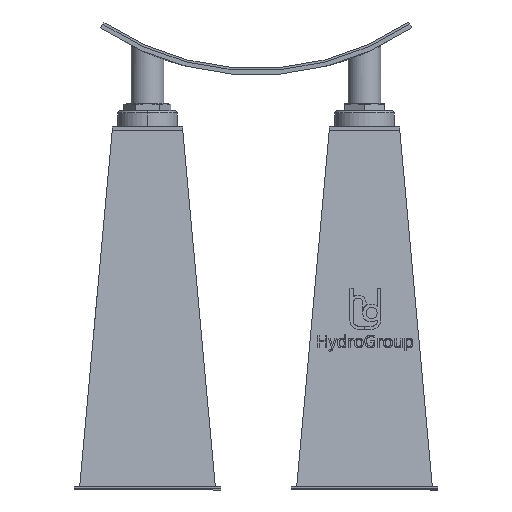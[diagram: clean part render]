
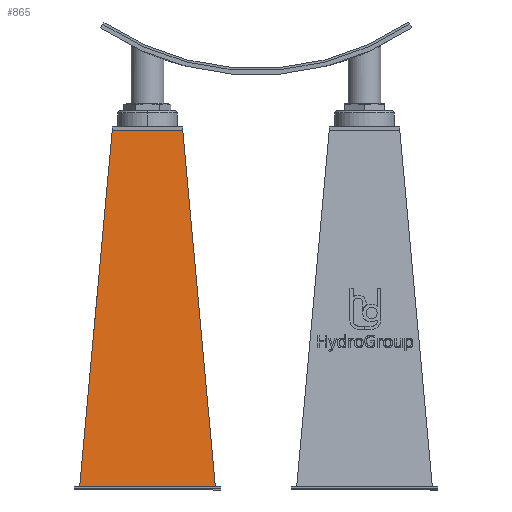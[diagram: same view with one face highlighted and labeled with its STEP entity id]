
A CAD part, front view. The second image highlights one B-rep face of the part: STEP entity #865.
In plain terms, the highlighted planar face has unit normal (0, -0.996, 0.091).
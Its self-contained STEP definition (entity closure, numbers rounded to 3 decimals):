
#865=ADVANCED_FACE('',(#1957),#1958,.T.);
#1957=FACE_OUTER_BOUND('',#3371,.T.);
#1958=PLANE('',#3372);
#3371=EDGE_LOOP('',(#5937,#5938,#5939,#5940));
#3372=AXIS2_PLACEMENT_3D('',#5941,#5942,#5943);
#5937=ORIENTED_EDGE('',*,*,#9039,.T.);
#5938=ORIENTED_EDGE('',*,*,#9056,.F.);
#5939=ORIENTED_EDGE('',*,*,#9026,.T.);
#5940=ORIENTED_EDGE('',*,*,#8786,.T.);
#5941=CARTESIAN_POINT('',(194.847,499.969,232.019));
#5942=DIRECTION('',(0.,-0.996,0.091));
#5943=DIRECTION('',(-1.0,0.,0.));
#8786=EDGE_CURVE('',#10466,#10464,#10467,.F.);
#9026=EDGE_CURVE('',#10780,#10466,#10781,.F.);
#9039=EDGE_CURVE('',#10464,#10802,#10805,.T.);
#9056=EDGE_CURVE('',#10780,#10802,#10826,.T.);
#10464=VERTEX_POINT('',#13090);
#10466=VERTEX_POINT('',#13093);
#10467=LINE('',#13094,#13095);
#10780=VERTEX_POINT('',#13665);
#10781=LINE('',#13666,#13667);
#10802=VERTEX_POINT('',#13698);
#10805=LINE('',#13702,#13703);
#10826=LINE('',#13734,#13735);
#13090=CARTESIAN_POINT('',(131.834,439.944,-425.254));
#13093=CARTESIAN_POINT('',(191.834,499.944,231.746));
#13094=CARTESIAN_POINT('',(192.392,500.502,237.857));
#13095=VECTOR('',#17140,1.);
#13665=CARTESIAN_POINT('',(321.859,499.944,231.746));
#13666=CARTESIAN_POINT('',(225.847,499.944,231.746));
#13667=VECTOR('',#17310,1.);
#13698=CARTESIAN_POINT('',(381.859,439.944,-425.254));
#13702=CARTESIAN_POINT('',(225.847,439.944,-425.254));
#13703=VECTOR('',#17322,1.);
#13734=CARTESIAN_POINT('',(321.301,500.502,237.857));
#13735=VECTOR('',#17333,1.);
#17140=DIRECTION('',(0.091,0.091,0.992));
#17310=DIRECTION('',(1.0,0.,0.));
#17322=DIRECTION('',(1.0,0.,0.));
#17333=DIRECTION('',(0.091,-0.091,-0.992));
